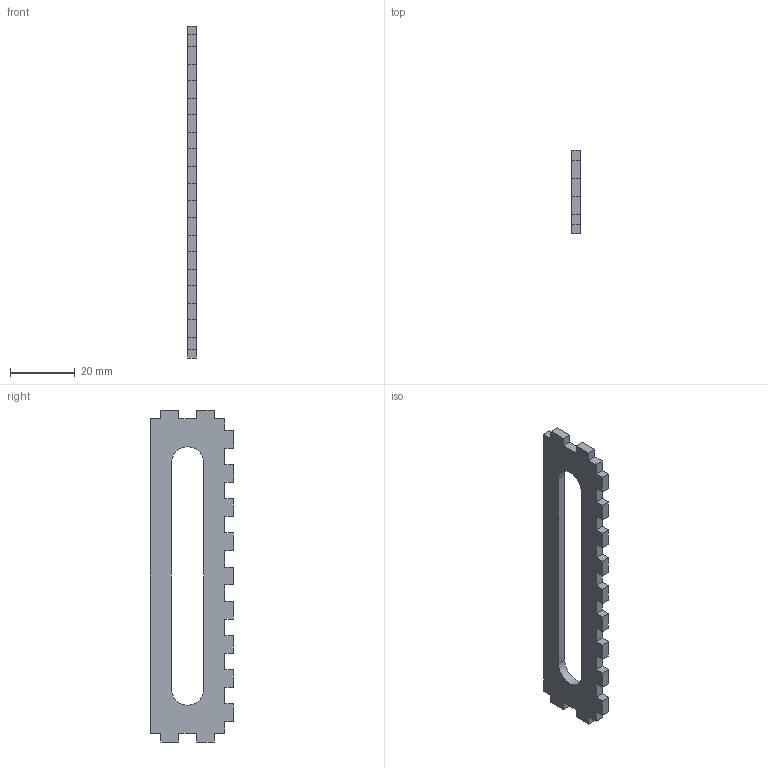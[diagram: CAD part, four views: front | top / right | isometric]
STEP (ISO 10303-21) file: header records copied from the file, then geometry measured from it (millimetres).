
FILE_DESCRIPTION(/* description */ ('STEP AP242 Edition 2','CAx-IF Rec.Pracs.---Representation and Presentation of Product Manufacturing Information (PMI)---4.0---2014-10-13','CAx-IF Rec.Pracs.---3D Tessellated Geometry---0.4---2014-09-14','2;1','CAx-IF Rec.Pracs.---User Defined Attributes---1.5---2016-08-15'),/* implementation_level */ '2;1');
FILE_NAME(/* name */ 'FlexibleBoxPartStudio - SlideGuide',/* time_stamp */ '2026-02-11T15:49:31Z',/* author */ (''),/* organization */ (''),/* preprocessor_version */ 'ST-DEVELOPER v20',/* originating_system */ 'ONSHAPE BY PTC INC, 1.210',/* authorisation */ ' ');
FILE_SCHEMA (('AP242_MANAGED_MODEL_BASED_3D_ENGINEERING_MIM_LF { 1 0 10303 442 3 1 4 }'));
Length unit declared in the file: metre
Products named in the file (1): SlideGuide
Bounding box: 2.7 x 25.7 x 102.8 mm (x, y, z)
Volume: 4467.7 mm3; surface area: 4611.9 mm2
Topology: 1 solids, 1 shells, 62 faces, 180 edges, 120 vertices
Faces by surface type: plane 60, cylinder 2
Entity records: 2034 total; most frequent: CARTESIAN_POINT 363, ORIENTED_EDGE 360, DIRECTION 310, EDGE_CURVE 180, LINE 176, VECTOR 176, VERTEX_POINT 120, AXIS2_PLACEMENT_3D 67
